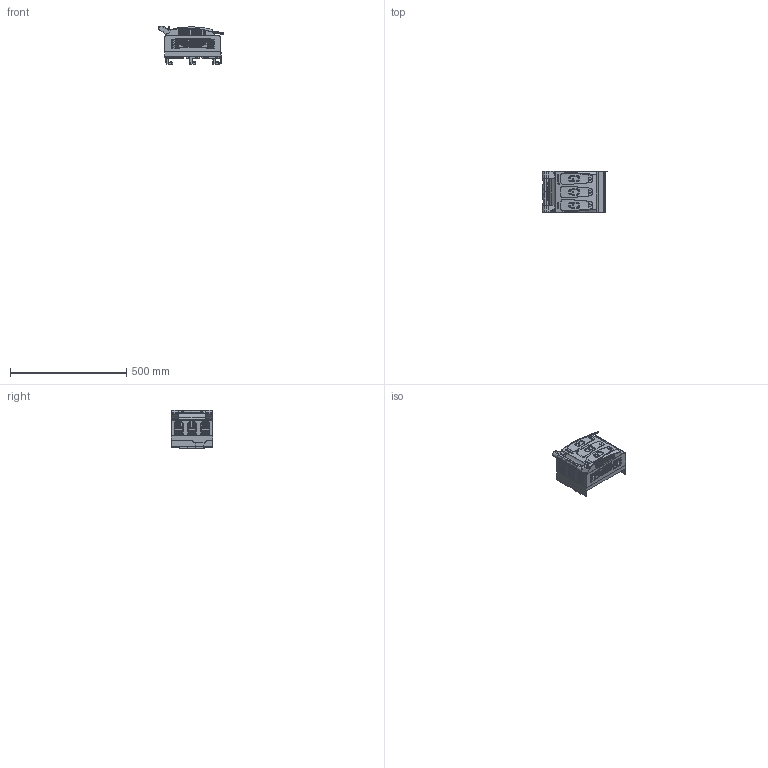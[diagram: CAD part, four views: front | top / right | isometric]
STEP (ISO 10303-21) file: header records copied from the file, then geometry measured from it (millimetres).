
FILE_DESCRIPTION(/* description */ (''),/* implementation_level */ '2;1');
FILE_NAME(/* name */ 'RBK 1 pro-SD-V 100.stp',/* time_stamp */ '2020-09-09T15:28:55+02:00',/* author */ (''),/* organization */ (''),/* preprocessor_version */ 'ST-DEVELOPER v16',/* originating_system */ 'SIEMENS PLM Software NX 10.0',/* authorisation */ '');
FILE_SCHEMA (('AUTOMOTIVE_DESIGN { 1 0 10303 214 3 1 1 1 }'));
Products named in the file (1): 710_43703CF0e5gq
Bounding box: 1402.39 x 180.06 x 1427.28 mm (x, y, z)
Volume: 4815973.3 mm3; surface area: 354329.5 mm2
Topology: 1 solids, 7 shells, 2698 faces, 7186 edges, 4584 vertices
Faces by surface type: plane 1771, bspline 335, cylinder 328, cone 119, torus 75, extrusion 28, sphere 24, revolution 18
Entity records: 99452 total; most frequent: CARTESIAN_POINT 33851, ORIENTED_EDGE 14194, DIRECTION 13085, EDGE_CURVE 7097, AXIS2_PLACEMENT_3D 4606, VERTEX_POINT 4566, VECTOR 3855, LINE 3827
